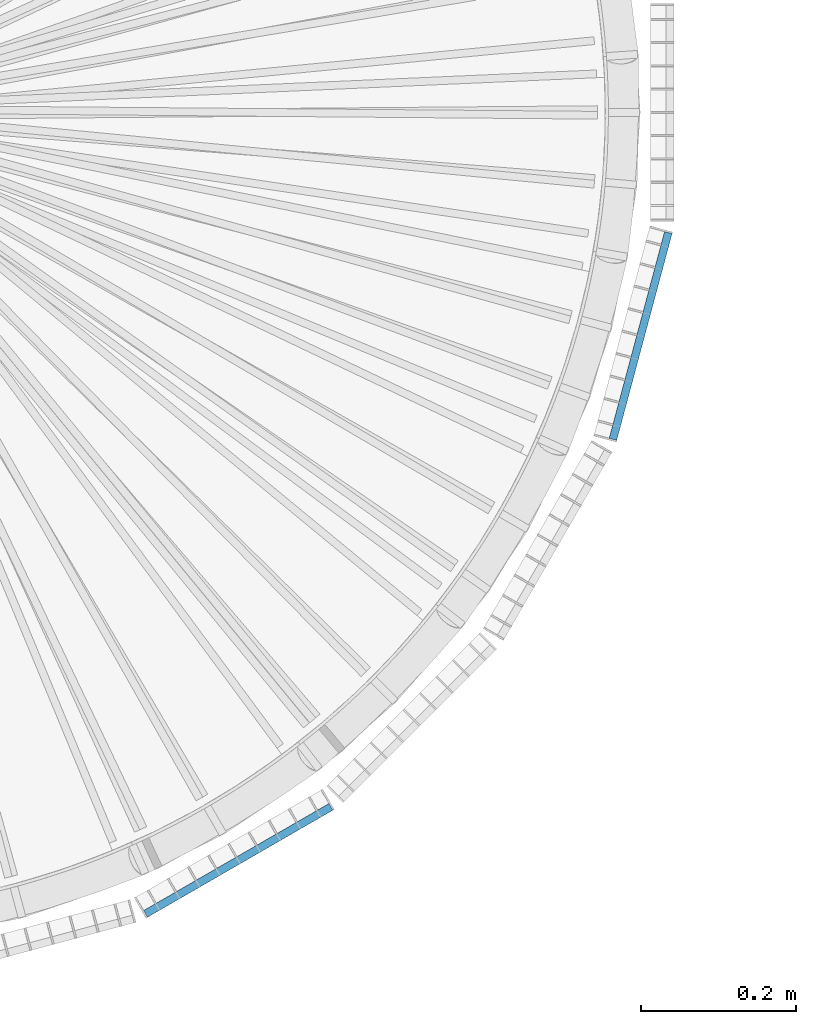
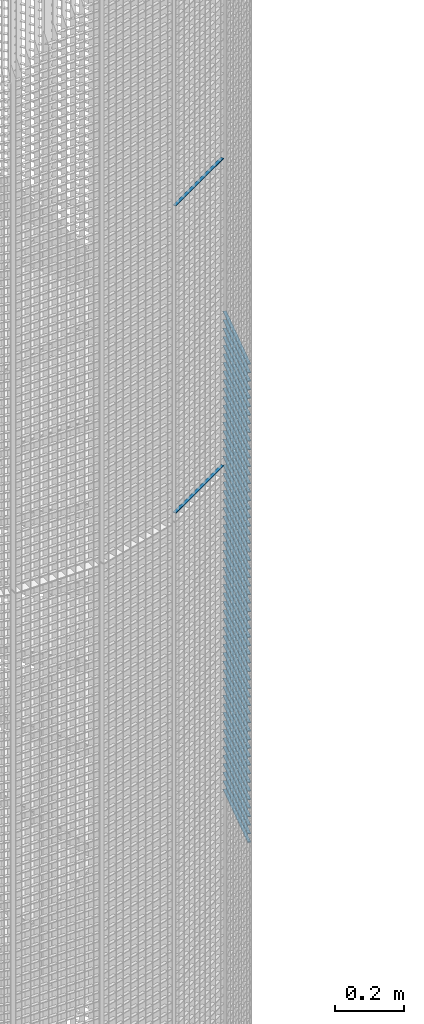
# One storey, part 253 of 1148: 59 beams, 2 elements without a shape of their own.
"""IFC2X3 building model written with IfcOpenShell, lengths in millimetres."""

from ifc_helpers import new_model, si_unit, frame, origin_with_axes, origin_2d_with_axis, place, context, subcontext, project, spatial, rectangle, extrude, material, type_object, element, aggregate, save


model = new_model("IFC2X3")

# Units and contexts
model_context = context("Model", 3, precision=1e-05, world=origin_with_axes())
body_context = subcontext(model_context, "Body", "Model", "MODEL_VIEW")
ifc_project = project(units=[si_unit("LENGTHUNIT", "METRE", prefix="MILLI"), si_unit("AREAUNIT", "SQUARE_METRE"), si_unit("VOLUMEUNIT", "CUBIC_METRE"), si_unit("MASSUNIT", "GRAM", prefix="KILO"), si_unit("TIMEUNIT", "SECOND"), si_unit("PLANEANGLEUNIT", "RADIAN"), si_unit("SOLIDANGLEUNIT", "STERADIAN"), si_unit("THERMODYNAMICTEMPERATUREUNIT", "DEGREE_CELSIUS"), si_unit("LUMINOUSINTENSITYUNIT", "LUMEN")], contexts=[model_context])

# Site, building, storey
site_placement = place(None, origin_with_axes())
site = spatial("IfcSite", under=ifc_project, at=site_placement, Name="Undefined", CompositionType="ELEMENT")
building_placement = place(site_placement, origin_with_axes())
building = spatial("IfcBuilding", under=site, at=building_placement, Name="Undefined", CompositionType="ELEMENT")
storey_placement = place(building_placement, origin_with_axes())
storey = spatial("IfcBuildingStorey", under=building, at=storey_placement, Name="Undefined", CompositionType="ELEMENT", Elevation=0.0)

# Assembly, beams
assembly_1_placement = place(storey_placement, origin_with_axes())
assembly_1 = element("IfcElementAssembly", 1, at=assembly_1_placement, inside=storey, Name="BORDURE", AssemblyPlace="NOTDEFINED", PredefinedType="NOTDEFINED")
ifc_material = material(Name="STEEL/S235JR")
beam_type = type_object("IfcBeamType", Name="PL2*10", PredefinedType="NOTDEFINED")
beam_1_placement = place(assembly_1_placement, frame((437.231955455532, -1033.29996828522, 4110.0), z_axis=(0.499999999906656, -0.866025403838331, 0.0), x_axis=(0.866025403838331, 0.499999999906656, 0.0)))
beam_1 = element("IfcBeam", 2, at=beam_1_placement, type_object=beam_type, material=ifc_material, Name="ENTRETOISE", context=body_context, shape_type="SweptSolid", body=[
    extrude(rectangle(XDim=2.0, YDim=10.0, at=origin_2d_with_axis()), frame((275.999999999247, 9.09494701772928e-13, 1.53210777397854e-14), z_axis=(-1.0, 0.0, 0.0), x_axis=(0.0, -1.0, 0.0)), (0.0, 0.0, 1.0), 276.0),
])
beam_2_placement = place(assembly_1_placement, frame((437.231955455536, -1033.29996828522, 3030.0), z_axis=(0.499999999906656, -0.866025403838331, 0.0), x_axis=(0.866025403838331, 0.499999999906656, 0.0)))
beam_2 = element("IfcBeam", 3, at=beam_2_placement, type_object=beam_type, material=ifc_material, Name="ENTRETOISE", context=body_context, shape_type="SweptSolid", body=[
    extrude(rectangle(XDim=2.0, YDim=10.0, at=origin_2d_with_axis()), frame((275.999999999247, 9.09494701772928e-13, 1.53210777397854e-14), z_axis=(-1.0, 0.0, 0.0), x_axis=(0.0, -1.0, 0.0)), (0.0, 0.0, 1.0), 276.0),
])
aggregate(assembly_1, [beam_1, beam_2])

assembly_2_placement = place(storey_placement, origin_with_axes())
assembly_2 = element("IfcElementAssembly", 4, at=assembly_2_placement, inside=storey, Name="BORDURE", AssemblyPlace="NOTDEFINED", PredefinedType="NOTDEFINED")
beam_3_placement = place(assembly_2_placement, frame((1039.82309522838, -421.483733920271, 2970.0), z_axis=(0.965925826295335, -0.258819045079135, 0.0), x_axis=(0.258819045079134, 0.965925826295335, 0.0)))
beam_3 = element("IfcBeam", 5, at=beam_3_placement, type_object=beam_type, material=ifc_material, Name="ENTRETOISE", context=body_context, shape_type="SweptSolid", body=[
    extrude(rectangle(XDim=2.0, YDim=10.0, at=origin_2d_with_axis()), frame((275.999999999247, 9.09494701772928e-13, 1.53210777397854e-14), z_axis=(-1.0, 0.0, 0.0), x_axis=(0.0, -1.0, 0.0)), (0.0, 0.0, 1.0), 276.0),
])
beam_4_placement = place(assembly_2_placement, frame((1039.82309522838, -421.483733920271, 2940.0), z_axis=(0.965925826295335, -0.258819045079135, 0.0), x_axis=(0.258819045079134, 0.965925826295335, 0.0)))
beam_4 = element("IfcBeam", 6, at=beam_4_placement, type_object=beam_type, material=ifc_material, Name="ENTRETOISE", context=body_context, shape_type="SweptSolid", body=[
    extrude(rectangle(XDim=2.0, YDim=10.0, at=origin_2d_with_axis()), frame((275.999999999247, 9.09494701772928e-13, 1.53210777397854e-14), z_axis=(-1.0, 0.0, 0.0), x_axis=(0.0, -1.0, 0.0)), (0.0, 0.0, 1.0), 276.0),
])
beam_5_placement = place(assembly_2_placement, frame((1039.82309522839, -421.483733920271, 2910.0), z_axis=(0.965925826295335, -0.258819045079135, 0.0), x_axis=(0.258819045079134, 0.965925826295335, 0.0)))
beam_5 = element("IfcBeam", 7, at=beam_5_placement, type_object=beam_type, material=ifc_material, Name="ENTRETOISE", context=body_context, shape_type="SweptSolid", body=[
    extrude(rectangle(XDim=2.0, YDim=10.0, at=origin_2d_with_axis()), frame((275.999999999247, 9.09494701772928e-13, 1.53210777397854e-14), z_axis=(-1.0, 0.0, 0.0), x_axis=(0.0, -1.0, 0.0)), (0.0, 0.0, 1.0), 276.0),
])
beam_6_placement = place(assembly_2_placement, frame((1039.82309522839, -421.483733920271, 2880.0), z_axis=(0.965925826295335, -0.258819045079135, 0.0), x_axis=(0.258819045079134, 0.965925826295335, 0.0)))
beam_6 = element("IfcBeam", 8, at=beam_6_placement, type_object=beam_type, material=ifc_material, Name="ENTRETOISE", context=body_context, shape_type="SweptSolid", body=[
    extrude(rectangle(XDim=2.0, YDim=10.0, at=origin_2d_with_axis()), frame((275.999999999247, 9.09494701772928e-13, 1.53210777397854e-14), z_axis=(-1.0, 0.0, 0.0), x_axis=(0.0, -1.0, 0.0)), (0.0, 0.0, 1.0), 276.0),
])
beam_7_placement = place(assembly_2_placement, frame((1039.82309522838, -421.483733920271, 2850.0), z_axis=(0.965925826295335, -0.258819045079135, 0.0), x_axis=(0.258819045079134, 0.965925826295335, 0.0)))
beam_7 = element("IfcBeam", 9, at=beam_7_placement, type_object=beam_type, material=ifc_material, Name="ENTRETOISE", context=body_context, shape_type="SweptSolid", body=[
    extrude(rectangle(XDim=2.0, YDim=10.0, at=origin_2d_with_axis()), frame((275.999999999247, 9.09494701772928e-13, 1.53210777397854e-14), z_axis=(-1.0, 0.0, 0.0), x_axis=(0.0, -1.0, 0.0)), (0.0, 0.0, 1.0), 276.0),
])
beam_8_placement = place(assembly_2_placement, frame((1039.82309522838, -421.483733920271, 2820.0), z_axis=(0.965925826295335, -0.258819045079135, 0.0), x_axis=(0.258819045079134, 0.965925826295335, 0.0)))
beam_8 = element("IfcBeam", 10, at=beam_8_placement, type_object=beam_type, material=ifc_material, Name="ENTRETOISE", context=body_context, shape_type="SweptSolid", body=[
    extrude(rectangle(XDim=2.0, YDim=10.0, at=origin_2d_with_axis()), frame((275.999999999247, 9.09494701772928e-13, 1.53210777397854e-14), z_axis=(-1.0, 0.0, 0.0), x_axis=(0.0, -1.0, 0.0)), (0.0, 0.0, 1.0), 276.0),
])
beam_9_placement = place(assembly_2_placement, frame((1039.82309522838, -421.483733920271, 2790.0), z_axis=(0.965925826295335, -0.258819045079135, 0.0), x_axis=(0.258819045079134, 0.965925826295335, 0.0)))
beam_9 = element("IfcBeam", 11, at=beam_9_placement, type_object=beam_type, material=ifc_material, Name="ENTRETOISE", context=body_context, shape_type="SweptSolid", body=[
    extrude(rectangle(XDim=2.0, YDim=10.0, at=origin_2d_with_axis()), frame((275.999999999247, 9.09494701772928e-13, 1.53210777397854e-14), z_axis=(-1.0, 0.0, 0.0), x_axis=(0.0, -1.0, 0.0)), (0.0, 0.0, 1.0), 276.0),
])
beam_10_placement = place(assembly_2_placement, frame((1039.82309522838, -421.483733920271, 2760.0), z_axis=(0.965925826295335, -0.258819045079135, 0.0), x_axis=(0.258819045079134, 0.965925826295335, 0.0)))
beam_10 = element("IfcBeam", 12, at=beam_10_placement, type_object=beam_type, material=ifc_material, Name="ENTRETOISE", context=body_context, shape_type="SweptSolid", body=[
    extrude(rectangle(XDim=2.0, YDim=10.0, at=origin_2d_with_axis()), frame((275.999999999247, 9.09494701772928e-13, 1.53210777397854e-14), z_axis=(-1.0, 0.0, 0.0), x_axis=(0.0, -1.0, 0.0)), (0.0, 0.0, 1.0), 276.0),
])
beam_11_placement = place(assembly_2_placement, frame((1039.82309522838, -421.48373392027, 2730.0), z_axis=(0.965925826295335, -0.258819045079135, 0.0), x_axis=(0.258819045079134, 0.965925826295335, 0.0)))
beam_11 = element("IfcBeam", 13, at=beam_11_placement, type_object=beam_type, material=ifc_material, Name="ENTRETOISE", context=body_context, shape_type="SweptSolid", body=[
    extrude(rectangle(XDim=2.0, YDim=10.0, at=origin_2d_with_axis()), frame((275.999999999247, 9.09494701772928e-13, 1.53210777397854e-14), z_axis=(-1.0, 0.0, 0.0), x_axis=(0.0, -1.0, 0.0)), (0.0, 0.0, 1.0), 276.0),
])
beam_12_placement = place(assembly_2_placement, frame((1039.82309522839, -421.48373392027, 2700.0), z_axis=(0.965925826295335, -0.258819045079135, 0.0), x_axis=(0.258819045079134, 0.965925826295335, 0.0)))
beam_12 = element("IfcBeam", 14, at=beam_12_placement, type_object=beam_type, material=ifc_material, Name="ENTRETOISE", context=body_context, shape_type="SweptSolid", body=[
    extrude(rectangle(XDim=2.0, YDim=10.0, at=origin_2d_with_axis()), frame((275.999999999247, 9.09494701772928e-13, 1.53210777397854e-14), z_axis=(-1.0, 0.0, 0.0), x_axis=(0.0, -1.0, 0.0)), (0.0, 0.0, 1.0), 276.0),
])
beam_13_placement = place(assembly_2_placement, frame((1039.82309522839, -421.48373392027, 2670.0), z_axis=(0.965925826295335, -0.258819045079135, 0.0), x_axis=(0.258819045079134, 0.965925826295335, 0.0)))
beam_13 = element("IfcBeam", 15, at=beam_13_placement, type_object=beam_type, material=ifc_material, Name="ENTRETOISE", context=body_context, shape_type="SweptSolid", body=[
    extrude(rectangle(XDim=2.0, YDim=10.0, at=origin_2d_with_axis()), frame((275.999999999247, 9.09494701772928e-13, 1.53210777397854e-14), z_axis=(-1.0, 0.0, 0.0), x_axis=(0.0, -1.0, 0.0)), (0.0, 0.0, 1.0), 276.0),
])
beam_14_placement = place(assembly_2_placement, frame((1039.82309522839, -421.48373392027, 2640.0), z_axis=(0.965925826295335, -0.258819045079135, 0.0), x_axis=(0.258819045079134, 0.965925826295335, 0.0)))
beam_14 = element("IfcBeam", 16, at=beam_14_placement, type_object=beam_type, material=ifc_material, Name="ENTRETOISE", context=body_context, shape_type="SweptSolid", body=[
    extrude(rectangle(XDim=2.0, YDim=10.0, at=origin_2d_with_axis()), frame((275.999999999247, 9.09494701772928e-13, 1.53210777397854e-14), z_axis=(-1.0, 0.0, 0.0), x_axis=(0.0, -1.0, 0.0)), (0.0, 0.0, 1.0), 276.0),
])
beam_15_placement = place(assembly_2_placement, frame((1039.82309522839, -421.48373392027, 2610.0), z_axis=(0.965925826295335, -0.258819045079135, 0.0), x_axis=(0.258819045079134, 0.965925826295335, 0.0)))
beam_15 = element("IfcBeam", 17, at=beam_15_placement, type_object=beam_type, material=ifc_material, Name="ENTRETOISE", context=body_context, shape_type="SweptSolid", body=[
    extrude(rectangle(XDim=2.0, YDim=10.0, at=origin_2d_with_axis()), frame((275.999999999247, 9.09494701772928e-13, 1.53210777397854e-14), z_axis=(-1.0, 0.0, 0.0), x_axis=(0.0, -1.0, 0.0)), (0.0, 0.0, 1.0), 276.0),
])
beam_16_placement = place(assembly_2_placement, frame((1039.82309522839, -421.48373392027, 2580.0), z_axis=(0.965925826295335, -0.258819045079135, 0.0), x_axis=(0.258819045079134, 0.965925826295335, 0.0)))
beam_16 = element("IfcBeam", 18, at=beam_16_placement, type_object=beam_type, material=ifc_material, Name="ENTRETOISE", context=body_context, shape_type="SweptSolid", body=[
    extrude(rectangle(XDim=2.0, YDim=10.0, at=origin_2d_with_axis()), frame((275.999999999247, 9.09494701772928e-13, 1.53210777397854e-14), z_axis=(-1.0, 0.0, 0.0), x_axis=(0.0, -1.0, 0.0)), (0.0, 0.0, 1.0), 276.0),
])
beam_17_placement = place(assembly_2_placement, frame((1039.82309522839, -421.48373392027, 2550.0), z_axis=(0.965925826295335, -0.258819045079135, 0.0), x_axis=(0.258819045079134, 0.965925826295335, 0.0)))
beam_17 = element("IfcBeam", 19, at=beam_17_placement, type_object=beam_type, material=ifc_material, Name="ENTRETOISE", context=body_context, shape_type="SweptSolid", body=[
    extrude(rectangle(XDim=2.0, YDim=10.0, at=origin_2d_with_axis()), frame((275.999999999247, 9.09494701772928e-13, 1.53210777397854e-14), z_axis=(-1.0, 0.0, 0.0), x_axis=(0.0, -1.0, 0.0)), (0.0, 0.0, 1.0), 276.0),
])
beam_18_placement = place(assembly_2_placement, frame((1039.82309522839, -421.48373392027, 2520.0), z_axis=(0.965925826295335, -0.258819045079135, 0.0), x_axis=(0.258819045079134, 0.965925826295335, 0.0)))
beam_18 = element("IfcBeam", 20, at=beam_18_placement, type_object=beam_type, material=ifc_material, Name="ENTRETOISE", context=body_context, shape_type="SweptSolid", body=[
    extrude(rectangle(XDim=2.0, YDim=10.0, at=origin_2d_with_axis()), frame((275.999999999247, 9.09494701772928e-13, 1.53210777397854e-14), z_axis=(-1.0, 0.0, 0.0), x_axis=(0.0, -1.0, 0.0)), (0.0, 0.0, 1.0), 276.0),
])
beam_19_placement = place(assembly_2_placement, frame((1039.82309522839, -421.48373392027, 2490.0), z_axis=(0.965925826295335, -0.258819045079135, 0.0), x_axis=(0.258819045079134, 0.965925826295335, 0.0)))
beam_19 = element("IfcBeam", 21, at=beam_19_placement, type_object=beam_type, material=ifc_material, Name="ENTRETOISE", context=body_context, shape_type="SweptSolid", body=[
    extrude(rectangle(XDim=2.0, YDim=10.0, at=origin_2d_with_axis()), frame((275.999999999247, 9.09494701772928e-13, 1.53210777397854e-14), z_axis=(-1.0, 0.0, 0.0), x_axis=(0.0, -1.0, 0.0)), (0.0, 0.0, 1.0), 276.0),
])
beam_20_placement = place(assembly_2_placement, frame((1039.82309522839, -421.483733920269, 2460.0), z_axis=(0.965925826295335, -0.258819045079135, 0.0), x_axis=(0.258819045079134, 0.965925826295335, 0.0)))
beam_20 = element("IfcBeam", 22, at=beam_20_placement, type_object=beam_type, material=ifc_material, Name="ENTRETOISE", context=body_context, shape_type="SweptSolid", body=[
    extrude(rectangle(XDim=2.0, YDim=10.0, at=origin_2d_with_axis()), frame((275.999999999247, 9.09494701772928e-13, 1.53210777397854e-14), z_axis=(-1.0, 0.0, 0.0), x_axis=(0.0, -1.0, 0.0)), (0.0, 0.0, 1.0), 276.0),
])
beam_21_placement = place(assembly_2_placement, frame((1039.82309522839, -421.483733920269, 2430.0), z_axis=(0.965925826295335, -0.258819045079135, 0.0), x_axis=(0.258819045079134, 0.965925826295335, 0.0)))
beam_21 = element("IfcBeam", 23, at=beam_21_placement, type_object=beam_type, material=ifc_material, Name="ENTRETOISE", context=body_context, shape_type="SweptSolid", body=[
    extrude(rectangle(XDim=2.0, YDim=10.0, at=origin_2d_with_axis()), frame((275.999999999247, 9.09494701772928e-13, 1.53210777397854e-14), z_axis=(-1.0, 0.0, 0.0), x_axis=(0.0, -1.0, 0.0)), (0.0, 0.0, 1.0), 276.0),
])
beam_22_placement = place(assembly_2_placement, frame((1039.82309522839, -421.483733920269, 2400.0), z_axis=(0.965925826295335, -0.258819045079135, 0.0), x_axis=(0.258819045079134, 0.965925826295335, 0.0)))
beam_22 = element("IfcBeam", 24, at=beam_22_placement, type_object=beam_type, material=ifc_material, Name="ENTRETOISE", context=body_context, shape_type="SweptSolid", body=[
    extrude(rectangle(XDim=2.0, YDim=10.0, at=origin_2d_with_axis()), frame((275.999999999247, 9.09494701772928e-13, 1.53210777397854e-14), z_axis=(-1.0, 0.0, 0.0), x_axis=(0.0, -1.0, 0.0)), (0.0, 0.0, 1.0), 276.0),
])
beam_23_placement = place(assembly_2_placement, frame((1039.82309522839, -421.483733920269, 2370.0), z_axis=(0.965925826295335, -0.258819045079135, 0.0), x_axis=(0.258819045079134, 0.965925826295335, 0.0)))
beam_23 = element("IfcBeam", 25, at=beam_23_placement, type_object=beam_type, material=ifc_material, Name="ENTRETOISE", context=body_context, shape_type="SweptSolid", body=[
    extrude(rectangle(XDim=2.0, YDim=10.0, at=origin_2d_with_axis()), frame((275.999999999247, 9.09494701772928e-13, 1.53210777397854e-14), z_axis=(-1.0, 0.0, 0.0), x_axis=(0.0, -1.0, 0.0)), (0.0, 0.0, 1.0), 276.0),
])
beam_24_placement = place(assembly_2_placement, frame((1039.82309522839, -421.483733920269, 2340.0), z_axis=(0.965925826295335, -0.258819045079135, 0.0), x_axis=(0.258819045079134, 0.965925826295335, 0.0)))
beam_24 = element("IfcBeam", 26, at=beam_24_placement, type_object=beam_type, material=ifc_material, Name="ENTRETOISE", context=body_context, shape_type="SweptSolid", body=[
    extrude(rectangle(XDim=2.0, YDim=10.0, at=origin_2d_with_axis()), frame((275.999999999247, 9.09494701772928e-13, 1.53210777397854e-14), z_axis=(-1.0, 0.0, 0.0), x_axis=(0.0, -1.0, 0.0)), (0.0, 0.0, 1.0), 276.0),
])
beam_25_placement = place(assembly_2_placement, frame((1039.82309522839, -421.483733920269, 2310.0), z_axis=(0.965925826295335, -0.258819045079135, 0.0), x_axis=(0.258819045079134, 0.965925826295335, 0.0)))
beam_25 = element("IfcBeam", 27, at=beam_25_placement, type_object=beam_type, material=ifc_material, Name="ENTRETOISE", context=body_context, shape_type="SweptSolid", body=[
    extrude(rectangle(XDim=2.0, YDim=10.0, at=origin_2d_with_axis()), frame((275.999999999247, 9.09494701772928e-13, 1.53210777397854e-14), z_axis=(-1.0, 0.0, 0.0), x_axis=(0.0, -1.0, 0.0)), (0.0, 0.0, 1.0), 276.0),
])
beam_26_placement = place(assembly_2_placement, frame((1039.82309522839, -421.483733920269, 2280.0), z_axis=(0.965925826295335, -0.258819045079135, 0.0), x_axis=(0.258819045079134, 0.965925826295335, 0.0)))
beam_26 = element("IfcBeam", 28, at=beam_26_placement, type_object=beam_type, material=ifc_material, Name="ENTRETOISE", context=body_context, shape_type="SweptSolid", body=[
    extrude(rectangle(XDim=2.0, YDim=10.0, at=origin_2d_with_axis()), frame((275.999999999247, 9.09494701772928e-13, 1.53210777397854e-14), z_axis=(-1.0, 0.0, 0.0), x_axis=(0.0, -1.0, 0.0)), (0.0, 0.0, 1.0), 276.0),
])
beam_27_placement = place(assembly_2_placement, frame((1039.82309522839, -421.483733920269, 2250.0), z_axis=(0.965925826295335, -0.258819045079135, 0.0), x_axis=(0.258819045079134, 0.965925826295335, 0.0)))
beam_27 = element("IfcBeam", 29, at=beam_27_placement, type_object=beam_type, material=ifc_material, Name="ENTRETOISE", context=body_context, shape_type="SweptSolid", body=[
    extrude(rectangle(XDim=2.0, YDim=10.0, at=origin_2d_with_axis()), frame((275.999999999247, 9.09494701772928e-13, 1.53210777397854e-14), z_axis=(-1.0, 0.0, 0.0), x_axis=(0.0, -1.0, 0.0)), (0.0, 0.0, 1.0), 276.0),
])
beam_28_placement = place(assembly_2_placement, frame((1039.82309522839, -421.483733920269, 2220.0), z_axis=(0.965925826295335, -0.258819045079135, 0.0), x_axis=(0.258819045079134, 0.965925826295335, 0.0)))
beam_28 = element("IfcBeam", 30, at=beam_28_placement, type_object=beam_type, material=ifc_material, Name="ENTRETOISE", context=body_context, shape_type="SweptSolid", body=[
    extrude(rectangle(XDim=2.0, YDim=10.0, at=origin_2d_with_axis()), frame((275.999999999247, 9.09494701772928e-13, 1.53210777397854e-14), z_axis=(-1.0, 0.0, 0.0), x_axis=(0.0, -1.0, 0.0)), (0.0, 0.0, 1.0), 276.0),
])
beam_29_placement = place(assembly_2_placement, frame((1039.82309522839, -421.483733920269, 2190.0), z_axis=(0.965925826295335, -0.258819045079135, 0.0), x_axis=(0.258819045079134, 0.965925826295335, 0.0)))
beam_29 = element("IfcBeam", 31, at=beam_29_placement, type_object=beam_type, material=ifc_material, Name="ENTRETOISE", context=body_context, shape_type="SweptSolid", body=[
    extrude(rectangle(XDim=2.0, YDim=10.0, at=origin_2d_with_axis()), frame((275.999999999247, 9.09494701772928e-13, 1.53210777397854e-14), z_axis=(-1.0, 0.0, 0.0), x_axis=(0.0, -1.0, 0.0)), (0.0, 0.0, 1.0), 276.0),
])
beam_30_placement = place(assembly_2_placement, frame((1039.82309522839, -421.483733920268, 2160.0), z_axis=(0.965925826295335, -0.258819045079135, 0.0), x_axis=(0.258819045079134, 0.965925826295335, 0.0)))
beam_30 = element("IfcBeam", 32, at=beam_30_placement, type_object=beam_type, material=ifc_material, Name="ENTRETOISE", context=body_context, shape_type="SweptSolid", body=[
    extrude(rectangle(XDim=2.0, YDim=10.0, at=origin_2d_with_axis()), frame((275.999999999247, 9.09494701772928e-13, 1.53210777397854e-14), z_axis=(-1.0, 0.0, 0.0), x_axis=(0.0, -1.0, 0.0)), (0.0, 0.0, 1.0), 276.0),
])
beam_31_placement = place(assembly_2_placement, frame((1039.82309522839, -421.483733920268, 2130.0), z_axis=(0.965925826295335, -0.258819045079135, 0.0), x_axis=(0.258819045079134, 0.965925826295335, 0.0)))
beam_31 = element("IfcBeam", 33, at=beam_31_placement, type_object=beam_type, material=ifc_material, Name="ENTRETOISE", context=body_context, shape_type="SweptSolid", body=[
    extrude(rectangle(XDim=2.0, YDim=10.0, at=origin_2d_with_axis()), frame((275.999999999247, 9.09494701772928e-13, 1.53210777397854e-14), z_axis=(-1.0, 0.0, 0.0), x_axis=(0.0, -1.0, 0.0)), (0.0, 0.0, 1.0), 276.0),
])
beam_32_placement = place(assembly_2_placement, frame((1039.82309522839, -421.483733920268, 2100.0), z_axis=(0.965925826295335, -0.258819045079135, 0.0), x_axis=(0.258819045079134, 0.965925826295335, 0.0)))
beam_32 = element("IfcBeam", 34, at=beam_32_placement, type_object=beam_type, material=ifc_material, Name="ENTRETOISE", context=body_context, shape_type="SweptSolid", body=[
    extrude(rectangle(XDim=2.0, YDim=10.0, at=origin_2d_with_axis()), frame((275.999999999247, 9.09494701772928e-13, 1.53210777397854e-14), z_axis=(-1.0, 0.0, 0.0), x_axis=(0.0, -1.0, 0.0)), (0.0, 0.0, 1.0), 276.0),
])
beam_33_placement = place(assembly_2_placement, frame((1039.82309522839, -421.483733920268, 2070.0), z_axis=(0.965925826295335, -0.258819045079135, 0.0), x_axis=(0.258819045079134, 0.965925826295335, 0.0)))
beam_33 = element("IfcBeam", 35, at=beam_33_placement, type_object=beam_type, material=ifc_material, Name="ENTRETOISE", context=body_context, shape_type="SweptSolid", body=[
    extrude(rectangle(XDim=2.0, YDim=10.0, at=origin_2d_with_axis()), frame((275.999999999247, 9.09494701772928e-13, 1.53210777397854e-14), z_axis=(-1.0, 0.0, 0.0), x_axis=(0.0, -1.0, 0.0)), (0.0, 0.0, 1.0), 276.0),
])
beam_34_placement = place(assembly_2_placement, frame((1039.82309522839, -421.483733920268, 2040.0), z_axis=(0.965925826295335, -0.258819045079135, 0.0), x_axis=(0.258819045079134, 0.965925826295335, 0.0)))
beam_34 = element("IfcBeam", 36, at=beam_34_placement, type_object=beam_type, material=ifc_material, Name="ENTRETOISE", context=body_context, shape_type="SweptSolid", body=[
    extrude(rectangle(XDim=2.0, YDim=10.0, at=origin_2d_with_axis()), frame((275.999999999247, 9.09494701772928e-13, 1.53210777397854e-14), z_axis=(-1.0, 0.0, 0.0), x_axis=(0.0, -1.0, 0.0)), (0.0, 0.0, 1.0), 276.0),
])
beam_35_placement = place(assembly_2_placement, frame((1039.82309522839, -421.483733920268, 2010.0), z_axis=(0.965925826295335, -0.258819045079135, 0.0), x_axis=(0.258819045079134, 0.965925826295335, 0.0)))
beam_35 = element("IfcBeam", 37, at=beam_35_placement, type_object=beam_type, material=ifc_material, Name="ENTRETOISE", context=body_context, shape_type="SweptSolid", body=[
    extrude(rectangle(XDim=2.0, YDim=10.0, at=origin_2d_with_axis()), frame((275.999999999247, 9.09494701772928e-13, 1.53210777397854e-14), z_axis=(-1.0, 0.0, 0.0), x_axis=(0.0, -1.0, 0.0)), (0.0, 0.0, 1.0), 276.0),
])
beam_36_placement = place(assembly_2_placement, frame((1039.82309522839, -421.483733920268, 1980.0), z_axis=(0.965925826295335, -0.258819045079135, 0.0), x_axis=(0.258819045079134, 0.965925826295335, 0.0)))
beam_36 = element("IfcBeam", 38, at=beam_36_placement, type_object=beam_type, material=ifc_material, Name="ENTRETOISE", context=body_context, shape_type="SweptSolid", body=[
    extrude(rectangle(XDim=2.0, YDim=10.0, at=origin_2d_with_axis()), frame((275.999999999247, 9.09494701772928e-13, 1.53210777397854e-14), z_axis=(-1.0, 0.0, 0.0), x_axis=(0.0, -1.0, 0.0)), (0.0, 0.0, 1.0), 276.0),
])
beam_37_placement = place(assembly_2_placement, frame((1039.82309522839, -421.483733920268, 1950.0), z_axis=(0.965925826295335, -0.258819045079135, 0.0), x_axis=(0.258819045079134, 0.965925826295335, 0.0)))
beam_37 = element("IfcBeam", 39, at=beam_37_placement, type_object=beam_type, material=ifc_material, Name="ENTRETOISE", context=body_context, shape_type="SweptSolid", body=[
    extrude(rectangle(XDim=2.0, YDim=10.0, at=origin_2d_with_axis()), frame((275.999999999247, 9.09494701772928e-13, 1.53210777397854e-14), z_axis=(-1.0, 0.0, 0.0), x_axis=(0.0, -1.0, 0.0)), (0.0, 0.0, 1.0), 276.0),
])
beam_38_placement = place(assembly_2_placement, frame((1039.82309522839, -421.483733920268, 1920.0), z_axis=(0.965925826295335, -0.258819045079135, 0.0), x_axis=(0.258819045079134, 0.965925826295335, 0.0)))
beam_38 = element("IfcBeam", 40, at=beam_38_placement, type_object=beam_type, material=ifc_material, Name="ENTRETOISE", context=body_context, shape_type="SweptSolid", body=[
    extrude(rectangle(XDim=2.0, YDim=10.0, at=origin_2d_with_axis()), frame((275.999999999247, 9.09494701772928e-13, 1.53210777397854e-14), z_axis=(-1.0, 0.0, 0.0), x_axis=(0.0, -1.0, 0.0)), (0.0, 0.0, 1.0), 276.0),
])
beam_39_placement = place(assembly_2_placement, frame((1039.82309522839, -421.483733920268, 1890.0), z_axis=(0.965925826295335, -0.258819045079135, 0.0), x_axis=(0.258819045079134, 0.965925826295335, 0.0)))
beam_39 = element("IfcBeam", 41, at=beam_39_placement, type_object=beam_type, material=ifc_material, Name="ENTRETOISE", context=body_context, shape_type="SweptSolid", body=[
    extrude(rectangle(XDim=2.0, YDim=10.0, at=origin_2d_with_axis()), frame((275.999999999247, 9.09494701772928e-13, 1.53210777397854e-14), z_axis=(-1.0, 0.0, 0.0), x_axis=(0.0, -1.0, 0.0)), (0.0, 0.0, 1.0), 276.0),
])
beam_40_placement = place(assembly_2_placement, frame((1039.82309522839, -421.483733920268, 1860.0), z_axis=(0.965925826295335, -0.258819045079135, 0.0), x_axis=(0.258819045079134, 0.965925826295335, 0.0)))
beam_40 = element("IfcBeam", 42, at=beam_40_placement, type_object=beam_type, material=ifc_material, Name="ENTRETOISE", context=body_context, shape_type="SweptSolid", body=[
    extrude(rectangle(XDim=2.0, YDim=10.0, at=origin_2d_with_axis()), frame((275.999999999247, 9.09494701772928e-13, 1.53210777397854e-14), z_axis=(-1.0, 0.0, 0.0), x_axis=(0.0, -1.0, 0.0)), (0.0, 0.0, 1.0), 276.0),
])
beam_41_placement = place(assembly_2_placement, frame((1039.82309522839, -421.483733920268, 1830.0), z_axis=(0.965925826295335, -0.258819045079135, 0.0), x_axis=(0.258819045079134, 0.965925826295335, 0.0)))
beam_41 = element("IfcBeam", 43, at=beam_41_placement, type_object=beam_type, material=ifc_material, Name="ENTRETOISE", context=body_context, shape_type="SweptSolid", body=[
    extrude(rectangle(XDim=2.0, YDim=10.0, at=origin_2d_with_axis()), frame((275.999999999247, 9.09494701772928e-13, 1.53210777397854e-14), z_axis=(-1.0, 0.0, 0.0), x_axis=(0.0, -1.0, 0.0)), (0.0, 0.0, 1.0), 276.0),
])
beam_42_placement = place(assembly_2_placement, frame((1039.82309522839, -421.483733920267, 1800.0), z_axis=(0.965925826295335, -0.258819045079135, 0.0), x_axis=(0.258819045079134, 0.965925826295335, 0.0)))
beam_42 = element("IfcBeam", 44, at=beam_42_placement, type_object=beam_type, material=ifc_material, Name="ENTRETOISE", context=body_context, shape_type="SweptSolid", body=[
    extrude(rectangle(XDim=2.0, YDim=10.0, at=origin_2d_with_axis()), frame((275.999999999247, 9.09494701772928e-13, 1.53210777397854e-14), z_axis=(-1.0, 0.0, 0.0), x_axis=(0.0, -1.0, 0.0)), (0.0, 0.0, 1.0), 276.0),
])
beam_43_placement = place(assembly_2_placement, frame((1039.82309522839, -421.483733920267, 1770.0), z_axis=(0.965925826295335, -0.258819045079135, 0.0), x_axis=(0.258819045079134, 0.965925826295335, 0.0)))
beam_43 = element("IfcBeam", 45, at=beam_43_placement, type_object=beam_type, material=ifc_material, Name="ENTRETOISE", context=body_context, shape_type="SweptSolid", body=[
    extrude(rectangle(XDim=2.0, YDim=10.0, at=origin_2d_with_axis()), frame((275.999999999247, 9.09494701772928e-13, 1.53210777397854e-14), z_axis=(-1.0, 0.0, 0.0), x_axis=(0.0, -1.0, 0.0)), (0.0, 0.0, 1.0), 276.0),
])
beam_44_placement = place(assembly_2_placement, frame((1039.82309522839, -421.483733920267, 1740.0), z_axis=(0.965925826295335, -0.258819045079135, 0.0), x_axis=(0.258819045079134, 0.965925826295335, 0.0)))
beam_44 = element("IfcBeam", 46, at=beam_44_placement, type_object=beam_type, material=ifc_material, Name="ENTRETOISE", context=body_context, shape_type="SweptSolid", body=[
    extrude(rectangle(XDim=2.0, YDim=10.0, at=origin_2d_with_axis()), frame((275.999999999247, 9.09494701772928e-13, 1.53210777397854e-14), z_axis=(-1.0, 0.0, 0.0), x_axis=(0.0, -1.0, 0.0)), (0.0, 0.0, 1.0), 276.0),
])
beam_45_placement = place(assembly_2_placement, frame((1039.82309522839, -421.483733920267, 1710.0), z_axis=(0.965925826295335, -0.258819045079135, 0.0), x_axis=(0.258819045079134, 0.965925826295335, 0.0)))
beam_45 = element("IfcBeam", 47, at=beam_45_placement, type_object=beam_type, material=ifc_material, Name="ENTRETOISE", context=body_context, shape_type="SweptSolid", body=[
    extrude(rectangle(XDim=2.0, YDim=10.0, at=origin_2d_with_axis()), frame((275.999999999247, 9.09494701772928e-13, 1.53210777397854e-14), z_axis=(-1.0, 0.0, 0.0), x_axis=(0.0, -1.0, 0.0)), (0.0, 0.0, 1.0), 276.0),
])
beam_46_placement = place(assembly_2_placement, frame((1039.82309522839, -421.483733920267, 1680.0), z_axis=(0.965925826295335, -0.258819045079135, 0.0), x_axis=(0.258819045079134, 0.965925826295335, 0.0)))
beam_46 = element("IfcBeam", 48, at=beam_46_placement, type_object=beam_type, material=ifc_material, Name="ENTRETOISE", context=body_context, shape_type="SweptSolid", body=[
    extrude(rectangle(XDim=2.0, YDim=10.0, at=origin_2d_with_axis()), frame((275.999999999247, 9.09494701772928e-13, 1.53210777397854e-14), z_axis=(-1.0, 0.0, 0.0), x_axis=(0.0, -1.0, 0.0)), (0.0, 0.0, 1.0), 276.0),
])
beam_47_placement = place(assembly_2_placement, frame((1039.82309522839, -421.483733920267, 1650.0), z_axis=(0.965925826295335, -0.258819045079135, 0.0), x_axis=(0.258819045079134, 0.965925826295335, 0.0)))
beam_47 = element("IfcBeam", 49, at=beam_47_placement, type_object=beam_type, material=ifc_material, Name="ENTRETOISE", context=body_context, shape_type="SweptSolid", body=[
    extrude(rectangle(XDim=2.0, YDim=10.0, at=origin_2d_with_axis()), frame((275.999999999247, 9.09494701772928e-13, 1.53210777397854e-14), z_axis=(-1.0, 0.0, 0.0), x_axis=(0.0, -1.0, 0.0)), (0.0, 0.0, 1.0), 276.0),
])
beam_48_placement = place(assembly_2_placement, frame((1039.82309522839, -421.483733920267, 1620.0), z_axis=(0.965925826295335, -0.258819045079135, 0.0), x_axis=(0.258819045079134, 0.965925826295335, 0.0)))
beam_48 = element("IfcBeam", 50, at=beam_48_placement, type_object=beam_type, material=ifc_material, Name="ENTRETOISE", context=body_context, shape_type="SweptSolid", body=[
    extrude(rectangle(XDim=2.0, YDim=10.0, at=origin_2d_with_axis()), frame((275.999999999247, 9.09494701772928e-13, 1.53210777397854e-14), z_axis=(-1.0, 0.0, 0.0), x_axis=(0.0, -1.0, 0.0)), (0.0, 0.0, 1.0), 276.0),
])
beam_49_placement = place(assembly_2_placement, frame((1039.82309522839, -421.483733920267, 1590.0), z_axis=(0.965925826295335, -0.258819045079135, 0.0), x_axis=(0.258819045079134, 0.965925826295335, 0.0)))
beam_49 = element("IfcBeam", 51, at=beam_49_placement, type_object=beam_type, material=ifc_material, Name="ENTRETOISE", context=body_context, shape_type="SweptSolid", body=[
    extrude(rectangle(XDim=2.0, YDim=10.0, at=origin_2d_with_axis()), frame((275.999999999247, 9.09494701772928e-13, 1.53210777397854e-14), z_axis=(-1.0, 0.0, 0.0), x_axis=(0.0, -1.0, 0.0)), (0.0, 0.0, 1.0), 276.0),
])
beam_50_placement = place(assembly_2_placement, frame((1039.82309522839, -421.483733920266, 1560.0), z_axis=(0.965925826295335, -0.258819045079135, 0.0), x_axis=(0.258819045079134, 0.965925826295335, 0.0)))
beam_50 = element("IfcBeam", 52, at=beam_50_placement, type_object=beam_type, material=ifc_material, Name="ENTRETOISE", context=body_context, shape_type="SweptSolid", body=[
    extrude(rectangle(XDim=2.0, YDim=10.0, at=origin_2d_with_axis()), frame((275.999999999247, 9.09494701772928e-13, 1.53210777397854e-14), z_axis=(-1.0, 0.0, 0.0), x_axis=(0.0, -1.0, 0.0)), (0.0, 0.0, 1.0), 276.0),
])
beam_51_placement = place(assembly_2_placement, frame((1039.82309522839, -421.483733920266, 1530.0), z_axis=(0.965925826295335, -0.258819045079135, 0.0), x_axis=(0.258819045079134, 0.965925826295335, 0.0)))
beam_51 = element("IfcBeam", 53, at=beam_51_placement, type_object=beam_type, material=ifc_material, Name="ENTRETOISE", context=body_context, shape_type="SweptSolid", body=[
    extrude(rectangle(XDim=2.0, YDim=10.0, at=origin_2d_with_axis()), frame((275.999999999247, 9.09494701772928e-13, 1.53210777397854e-14), z_axis=(-1.0, 0.0, 0.0), x_axis=(0.0, -1.0, 0.0)), (0.0, 0.0, 1.0), 276.0),
])
beam_52_placement = place(assembly_2_placement, frame((1039.82309522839, -421.483733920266, 1500.0), z_axis=(0.965925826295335, -0.258819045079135, 0.0), x_axis=(0.258819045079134, 0.965925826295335, 0.0)))
beam_52 = element("IfcBeam", 54, at=beam_52_placement, type_object=beam_type, material=ifc_material, Name="ENTRETOISE", context=body_context, shape_type="SweptSolid", body=[
    extrude(rectangle(XDim=2.0, YDim=10.0, at=origin_2d_with_axis()), frame((275.999999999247, 9.09494701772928e-13, 1.53210777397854e-14), z_axis=(-1.0, 0.0, 0.0), x_axis=(0.0, -1.0, 0.0)), (0.0, 0.0, 1.0), 276.0),
])
beam_53_placement = place(assembly_2_placement, frame((1039.82309522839, -421.483733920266, 1470.0), z_axis=(0.965925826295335, -0.258819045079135, 0.0), x_axis=(0.258819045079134, 0.965925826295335, 0.0)))
beam_53 = element("IfcBeam", 55, at=beam_53_placement, type_object=beam_type, material=ifc_material, Name="ENTRETOISE", context=body_context, shape_type="SweptSolid", body=[
    extrude(rectangle(XDim=2.0, YDim=10.0, at=origin_2d_with_axis()), frame((275.999999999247, 9.09494701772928e-13, 1.53210777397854e-14), z_axis=(-1.0, 0.0, 0.0), x_axis=(0.0, -1.0, 0.0)), (0.0, 0.0, 1.0), 276.0),
])
beam_54_placement = place(assembly_2_placement, frame((1039.82309522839, -421.483733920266, 1440.0), z_axis=(0.965925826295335, -0.258819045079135, 0.0), x_axis=(0.258819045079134, 0.965925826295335, 0.0)))
beam_54 = element("IfcBeam", 56, at=beam_54_placement, type_object=beam_type, material=ifc_material, Name="ENTRETOISE", context=body_context, shape_type="SweptSolid", body=[
    extrude(rectangle(XDim=2.0, YDim=10.0, at=origin_2d_with_axis()), frame((275.999999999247, 9.09494701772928e-13, 1.53210777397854e-14), z_axis=(-1.0, 0.0, 0.0), x_axis=(0.0, -1.0, 0.0)), (0.0, 0.0, 1.0), 276.0),
])
beam_55_placement = place(assembly_2_placement, frame((1039.82309522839, -421.483733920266, 1410.0), z_axis=(0.965925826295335, -0.258819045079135, 0.0), x_axis=(0.258819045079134, 0.965925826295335, 0.0)))
beam_55 = element("IfcBeam", 57, at=beam_55_placement, type_object=beam_type, material=ifc_material, Name="ENTRETOISE", context=body_context, shape_type="SweptSolid", body=[
    extrude(rectangle(XDim=2.0, YDim=10.0, at=origin_2d_with_axis()), frame((275.999999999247, 9.09494701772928e-13, 1.53210777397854e-14), z_axis=(-1.0, 0.0, 0.0), x_axis=(0.0, -1.0, 0.0)), (0.0, 0.0, 1.0), 276.0),
])
beam_56_placement = place(assembly_2_placement, frame((1039.82309522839, -421.483733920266, 1380.0), z_axis=(0.965925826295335, -0.258819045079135, 0.0), x_axis=(0.258819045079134, 0.965925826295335, 0.0)))
beam_56 = element("IfcBeam", 58, at=beam_56_placement, type_object=beam_type, material=ifc_material, Name="ENTRETOISE", context=body_context, shape_type="SweptSolid", body=[
    extrude(rectangle(XDim=2.0, YDim=10.0, at=origin_2d_with_axis()), frame((275.999999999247, 9.09494701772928e-13, 1.53210777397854e-14), z_axis=(-1.0, 0.0, 0.0), x_axis=(0.0, -1.0, 0.0)), (0.0, 0.0, 1.0), 276.0),
])
beam_57_placement = place(assembly_2_placement, frame((1039.82309522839, -421.483733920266, 1350.0), z_axis=(0.965925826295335, -0.258819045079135, 0.0), x_axis=(0.258819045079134, 0.965925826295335, 0.0)))
beam_57 = element("IfcBeam", 59, at=beam_57_placement, type_object=beam_type, material=ifc_material, Name="ENTRETOISE", context=body_context, shape_type="SweptSolid", body=[
    extrude(rectangle(XDim=2.0, YDim=10.0, at=origin_2d_with_axis()), frame((275.999999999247, 9.09494701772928e-13, 1.53210777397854e-14), z_axis=(-1.0, 0.0, 0.0), x_axis=(0.0, -1.0, 0.0)), (0.0, 0.0, 1.0), 276.0),
])
beam_58_placement = place(assembly_2_placement, frame((1039.82309522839, -421.483733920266, 1320.0), z_axis=(0.965925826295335, -0.258819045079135, 0.0), x_axis=(0.258819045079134, 0.965925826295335, 0.0)))
beam_58 = element("IfcBeam", 60, at=beam_58_placement, type_object=beam_type, material=ifc_material, Name="ENTRETOISE", context=body_context, shape_type="SweptSolid", body=[
    extrude(rectangle(XDim=2.0, YDim=10.0, at=origin_2d_with_axis()), frame((275.999999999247, 9.09494701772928e-13, 1.53210777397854e-14), z_axis=(-1.0, 0.0, 0.0), x_axis=(0.0, -1.0, 0.0)), (0.0, 0.0, 1.0), 276.0),
])
beam_59_placement = place(assembly_2_placement, frame((1039.82309522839, -421.483733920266, 1290.0), z_axis=(0.965925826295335, -0.258819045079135, 0.0), x_axis=(0.258819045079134, 0.965925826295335, 0.0)))
beam_59 = element("IfcBeam", 61, at=beam_59_placement, type_object=beam_type, material=ifc_material, Name="ENTRETOISE", context=body_context, shape_type="SweptSolid", body=[
    extrude(rectangle(XDim=2.0, YDim=10.0, at=origin_2d_with_axis()), frame((275.999999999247, 9.09494701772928e-13, 1.53210777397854e-14), z_axis=(-1.0, 0.0, 0.0), x_axis=(0.0, -1.0, 0.0)), (0.0, 0.0, 1.0), 276.0),
])
aggregate(assembly_2, [beam_3, beam_4, beam_5, beam_6, beam_7, beam_8, beam_9, beam_10, beam_11, beam_12, beam_13, beam_14, beam_15, beam_16, beam_17, beam_18, beam_19, beam_20, beam_21, beam_22, beam_23, beam_24, beam_25, beam_26, beam_27, beam_28, beam_29, beam_30, beam_31, beam_32, beam_33, beam_34, beam_35, beam_36, beam_37, beam_38, beam_39, beam_40, beam_41, beam_42, beam_43, beam_44, beam_45, beam_46, beam_47, beam_48, beam_49, beam_50, beam_51, beam_52, beam_53, beam_54, beam_55, beam_56, beam_57, beam_58, beam_59])

save(model, "model.ifc")
